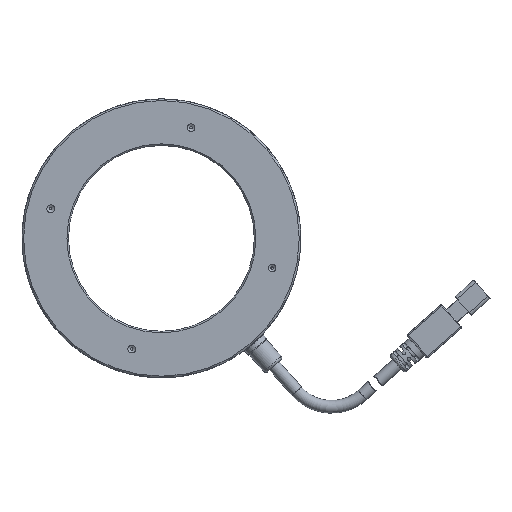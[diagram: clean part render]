
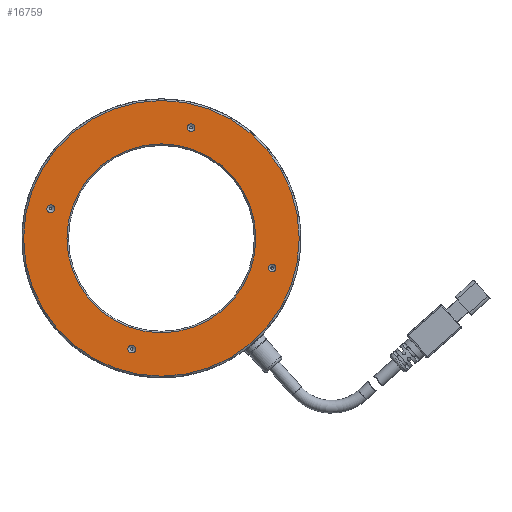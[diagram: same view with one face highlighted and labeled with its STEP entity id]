
A CAD part, front view. The second image highlights one B-rep face of the part: STEP entity #16759.
In plain terms, the highlighted planar face has unit normal (0, -1, 0).
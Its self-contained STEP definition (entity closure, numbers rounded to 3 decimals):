
#304 = AXIS2_PLACEMENT_3D ( 'NONE', #6055, #23895, #19109 ) ;
#857 = EDGE_LOOP ( 'NONE', ( #13021 ) ) ;
#933 = FACE_BOUND ( 'NONE', #20178, .T. ) ;
#1219 = ORIENTED_EDGE ( 'NONE', *, *, #7042, .T. ) ;
#1258 = CIRCLE ( 'NONE', #21732, 1.25 ) ;
#1371 = AXIS2_PLACEMENT_3D ( 'NONE', #19192, #28292, #10334 ) ;
#1755 = CARTESIAN_POINT ( 'NONE',  ( -8.623, 4.974, 30.5 ) ) ;
#2207 = ORIENTED_EDGE ( 'NONE', *, *, #13167, .T. ) ;
#3139 = DIRECTION ( 'NONE',  ( 0., 1., 0. ) ) ;
#3179 = DIRECTION ( 'NONE',  ( 0., 1., 0. ) ) ;
#3852 = PLANE ( 'NONE',  #304 ) ;
#4564 = EDGE_CURVE ( 'NONE', #22992, #22992, #7568, .T. ) ;
#4672 = FACE_BOUND ( 'NONE', #25693, .T. ) ;
#5154 = CIRCLE ( 'NONE', #18279, 30.5 ) ;
#5411 = CARTESIAN_POINT ( 'NONE',  ( -8.623, 4.974, 0. ) ) ;
#5703 = FACE_BOUND ( 'NONE', #20158, .T. ) ;
#6055 = CARTESIAN_POINT ( 'NONE',  ( -8.623, 4.974, 0. ) ) ;
#6862 = VERTEX_POINT ( 'NONE', #1755 ) ;
#7042 = EDGE_CURVE ( 'NONE', #6862, #6862, #5154, .T. ) ;
#7203 = EDGE_CURVE ( 'NONE', #18882, #18882, #13054, .T. ) ;
#7568 = CIRCLE ( 'NONE', #16354, 1.25 ) ;
#8574 = DIRECTION ( 'NONE',  ( 0., 1., 0. ) ) ;
#10334 = DIRECTION ( 'NONE',  ( 0., 0., 1. ) ) ;
#10590 = VERTEX_POINT ( 'NONE', #22159 ) ;
#10840 = EDGE_CURVE ( 'NONE', #27795, #27795, #12957, .T. ) ;
#11715 = CIRCLE ( 'NONE', #1371, 1.25 ) ;
#12957 = CIRCLE ( 'NONE', #22400, 1.25 ) ;
#13021 = ORIENTED_EDGE ( 'NONE', *, *, #10840, .T. ) ;
#13054 = CIRCLE ( 'NONE', #20303, 44.5 ) ;
#13167 = EDGE_CURVE ( 'NONE', #10590, #10590, #1258, .T. ) ;
#13277 = ORIENTED_EDGE ( 'NONE', *, *, #4564, .T. ) ;
#13280 = DIRECTION ( 'NONE',  ( 0., 0., 1. ) ) ;
#13866 = ORIENTED_EDGE ( 'NONE', *, *, #7203, .T. ) ;
#14284 = CARTESIAN_POINT ( 'NONE',  ( -44.363, 4.974, 9.576 ) ) ;
#14424 = EDGE_LOOP ( 'NONE', ( #13866 ) ) ;
#15585 = DIRECTION ( 'NONE',  ( 0., 1., 0. ) ) ;
#16173 = ORIENTED_EDGE ( 'NONE', *, *, #26302, .T. ) ;
#16354 = AXIS2_PLACEMENT_3D ( 'NONE', #14284, #3179, #16478 ) ;
#16478 = DIRECTION ( 'NONE',  ( 0., 0., 1. ) ) ;
#16759 = ADVANCED_FACE ( 'NONE', ( #24249, #5703, #26300, #4672, #20475, #933 ), #3852, .F. ) ;
#16940 = EDGE_LOOP ( 'NONE', ( #2207 ) ) ;
#17102 = CARTESIAN_POINT ( 'NONE',  ( 0.953, 4.974, 35.739 ) ) ;
#17259 = CARTESIAN_POINT ( 'NONE',  ( -44.363, 4.974, 10.826 ) ) ;
#18279 = AXIS2_PLACEMENT_3D ( 'NONE', #5411, #3139, #27477 ) ;
#18882 = VERTEX_POINT ( 'NONE', #23673 ) ;
#19109 = DIRECTION ( 'NONE',  ( 0., 0., 1. ) ) ;
#19192 = CARTESIAN_POINT ( 'NONE',  ( 27.116, 4.974, -9.576 ) ) ;
#20158 = EDGE_LOOP ( 'NONE', ( #1219 ) ) ;
#20178 = EDGE_LOOP ( 'NONE', ( #16173 ) ) ;
#20303 = AXIS2_PLACEMENT_3D ( 'NONE', #23636, #25858, #28049 ) ;
#20475 = FACE_BOUND ( 'NONE', #857, .T. ) ;
#21732 = AXIS2_PLACEMENT_3D ( 'NONE', #24233, #15585, #13280 ) ;
#22044 = VERTEX_POINT ( 'NONE', #24068 ) ;
#22159 = CARTESIAN_POINT ( 'NONE',  ( -18.2, 4.974, -34.489 ) ) ;
#22400 = AXIS2_PLACEMENT_3D ( 'NONE', #17102, #8574, #24412 ) ;
#22992 = VERTEX_POINT ( 'NONE', #17259 ) ;
#23636 = CARTESIAN_POINT ( 'NONE',  ( -8.623, 4.974, 0. ) ) ;
#23673 = CARTESIAN_POINT ( 'NONE',  ( -8.623, 4.974, 44.5 ) ) ;
#23895 = DIRECTION ( 'NONE',  ( 0., 1., 0. ) ) ;
#24068 = CARTESIAN_POINT ( 'NONE',  ( 27.116, 4.974, -8.326 ) ) ;
#24233 = CARTESIAN_POINT ( 'NONE',  ( -18.2, 4.974, -35.739 ) ) ;
#24249 = FACE_OUTER_BOUND ( 'NONE', #14424, .T. ) ;
#24412 = DIRECTION ( 'NONE',  ( 0., 0., 1. ) ) ;
#25693 = EDGE_LOOP ( 'NONE', ( #13277 ) ) ;
#25797 = CARTESIAN_POINT ( 'NONE',  ( 0.953, 4.974, 36.989 ) ) ;
#25858 = DIRECTION ( 'NONE',  ( 0., -1., 0. ) ) ;
#26300 = FACE_BOUND ( 'NONE', #16940, .T. ) ;
#26302 = EDGE_CURVE ( 'NONE', #22044, #22044, #11715, .T. ) ;
#27477 = DIRECTION ( 'NONE',  ( 0., 0., 1. ) ) ;
#27795 = VERTEX_POINT ( 'NONE', #25797 ) ;
#28049 = DIRECTION ( 'NONE',  ( 0., 0., 1. ) ) ;
#28292 = DIRECTION ( 'NONE',  ( 0., 1., 0. ) ) ;
